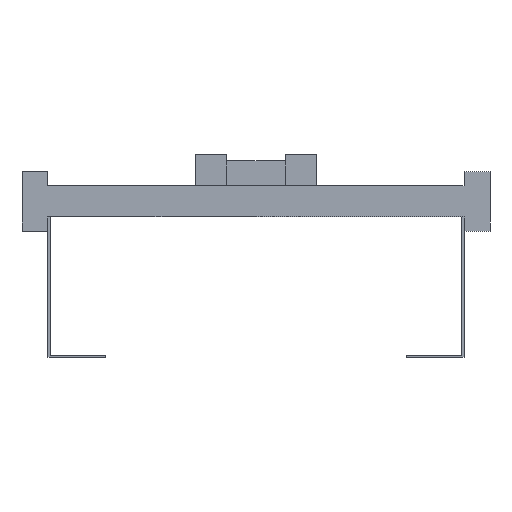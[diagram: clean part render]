
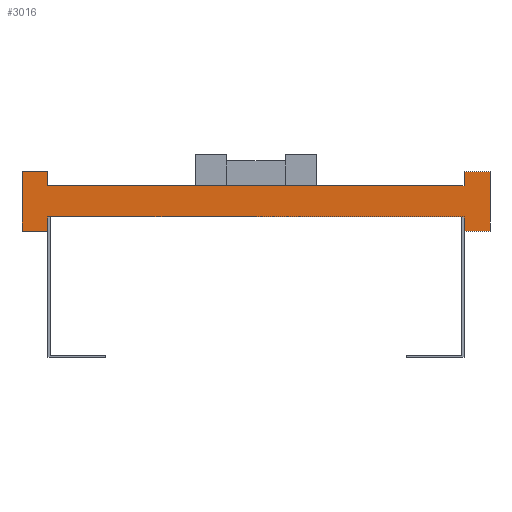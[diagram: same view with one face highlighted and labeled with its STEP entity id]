
A CAD part, front view. The second image highlights one B-rep face of the part: STEP entity #3016.
In plain terms, the highlighted planar face has unit normal (0, -1, 0).
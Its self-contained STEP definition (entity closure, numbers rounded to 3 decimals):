
#1=DIRECTION('',(0.,0.,1.));
#2=VECTOR('',#1,13.5);
#3=CARTESIAN_POINT('',(200.,0.,-28.5));
#4=LINE('',#3,#2);
#5=DIRECTION('',(0.,0.,-1.));
#6=VECTOR('',#5,13.5);
#7=CARTESIAN_POINT('',(-200.,0.,-15.));
#8=LINE('',#7,#6);
#9=DIRECTION('',(-1.,0.,0.));
#10=VECTOR('',#9,25.);
#11=CARTESIAN_POINT('',(-200.,0.,-28.5));
#12=LINE('',#11,#10);
#13=DIRECTION('',(0.,0.,1.));
#14=VECTOR('',#13,57.);
#15=CARTESIAN_POINT('',(-225.,0.,-28.5));
#16=LINE('',#15,#14);
#17=DIRECTION('',(1.,0.,0.));
#18=VECTOR('',#17,25.);
#19=CARTESIAN_POINT('',(-225.,0.,28.5));
#20=LINE('',#19,#18);
#21=DIRECTION('',(0.,0.,-1.));
#22=VECTOR('',#21,13.5);
#23=CARTESIAN_POINT('',(-200.,0.,28.5));
#24=LINE('',#23,#22);
#25=DIRECTION('',(0.,0.,1.));
#26=VECTOR('',#25,13.5);
#27=CARTESIAN_POINT('',(200.,0.,15.));
#28=LINE('',#27,#26);
#29=DIRECTION('',(1.,0.,0.));
#30=VECTOR('',#29,25.);
#31=CARTESIAN_POINT('',(200.,0.,28.5));
#32=LINE('',#31,#30);
#33=DIRECTION('',(0.,0.,-1.));
#34=VECTOR('',#33,57.);
#35=CARTESIAN_POINT('',(225.,0.,28.5));
#36=LINE('',#35,#34);
#37=DIRECTION('',(-1.,0.,0.));
#38=VECTOR('',#37,25.);
#39=CARTESIAN_POINT('',(225.,0.,-28.5));
#40=LINE('',#39,#38);
#2265=DIRECTION('',(1.,0.,0.));
#2266=VECTOR('',#2265,400.);
#2267=CARTESIAN_POINT('',(-200.,0.,-15.));
#2268=LINE('',#2267,#2266);
#2277=DIRECTION('',(1.,0.,0.));
#2278=VECTOR('',#2277,400.);
#2279=CARTESIAN_POINT('',(-200.,0.,15.));
#2280=LINE('',#2279,#2278);
#2281=CARTESIAN_POINT('',(-225.,0.,28.5));
#2282=CARTESIAN_POINT('',(-200.,0.,28.5));
#2283=VERTEX_POINT('',#2281);
#2284=VERTEX_POINT('',#2282);
#2285=CARTESIAN_POINT('',(-200.,0.,-28.5));
#2286=CARTESIAN_POINT('',(-225.,0.,-28.5));
#2287=VERTEX_POINT('',#2285);
#2288=VERTEX_POINT('',#2286);
#2289=CARTESIAN_POINT('',(225.,0.,28.5));
#2290=CARTESIAN_POINT('',(225.,0.,-28.5));
#2291=VERTEX_POINT('',#2289);
#2292=VERTEX_POINT('',#2290);
#2293=CARTESIAN_POINT('',(200.,0.,-28.5));
#2294=VERTEX_POINT('',#2293);
#2295=CARTESIAN_POINT('',(200.,0.,28.5));
#2296=VERTEX_POINT('',#2295);
#2313=CARTESIAN_POINT('',(-200.,0.,-15.));
#2315=VERTEX_POINT('',#2313);
#2317=CARTESIAN_POINT('',(-200.,0.,15.));
#2319=VERTEX_POINT('',#2317);
#2321=CARTESIAN_POINT('',(200.,0.,-15.));
#2323=VERTEX_POINT('',#2321);
#2325=CARTESIAN_POINT('',(200.,0.,15.));
#2327=VERTEX_POINT('',#2325);
#2985=CARTESIAN_POINT('',(0.,0.,0.));
#2986=DIRECTION('',(0.,1.,0.));
#2987=DIRECTION('',(1.,0.,0.));
#2988=AXIS2_PLACEMENT_3D('',#2985,#2986,#2987);
#2989=PLANE('',#2988);
#2991=ORIENTED_EDGE('',*,*,#2990,.T.);
#2993=ORIENTED_EDGE('',*,*,#2992,.F.);
#2995=ORIENTED_EDGE('',*,*,#2994,.T.);
#2997=ORIENTED_EDGE('',*,*,#2996,.T.);
#2999=ORIENTED_EDGE('',*,*,#2998,.T.);
#3001=ORIENTED_EDGE('',*,*,#3000,.T.);
#3003=ORIENTED_EDGE('',*,*,#3002,.T.);
#3005=ORIENTED_EDGE('',*,*,#3004,.T.);
#3007=ORIENTED_EDGE('',*,*,#3006,.T.);
#3009=ORIENTED_EDGE('',*,*,#3008,.T.);
#3011=ORIENTED_EDGE('',*,*,#3010,.T.);
#3013=ORIENTED_EDGE('',*,*,#3012,.T.);
#3014=EDGE_LOOP('',(#2991,#2993,#2995,#2997,#2999,#3001,#3003,#3005,#3007,#3009,
#3011,#3013));
#3015=FACE_OUTER_BOUND('',#3014,.F.);
#3016=ADVANCED_FACE('',(#3015),#2989,.F.);
#2990=EDGE_CURVE('',#2294,#2323,#4,.T.);
#2992=EDGE_CURVE('',#2315,#2323,#2268,.T.);
#2994=EDGE_CURVE('',#2315,#2287,#8,.T.);
#2996=EDGE_CURVE('',#2287,#2288,#12,.T.);
#2998=EDGE_CURVE('',#2288,#2283,#16,.T.);
#3000=EDGE_CURVE('',#2283,#2284,#20,.T.);
#3002=EDGE_CURVE('',#2284,#2319,#24,.T.);
#3004=EDGE_CURVE('',#2319,#2327,#2280,.T.);
#3006=EDGE_CURVE('',#2327,#2296,#28,.T.);
#3008=EDGE_CURVE('',#2296,#2291,#32,.T.);
#3010=EDGE_CURVE('',#2291,#2292,#36,.T.);
#3012=EDGE_CURVE('',#2292,#2294,#40,.T.);
